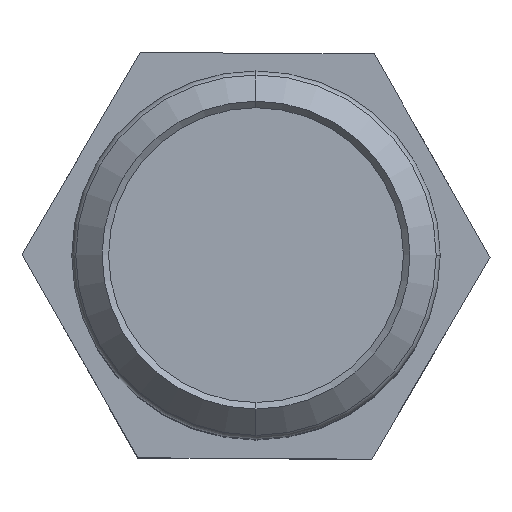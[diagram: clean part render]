
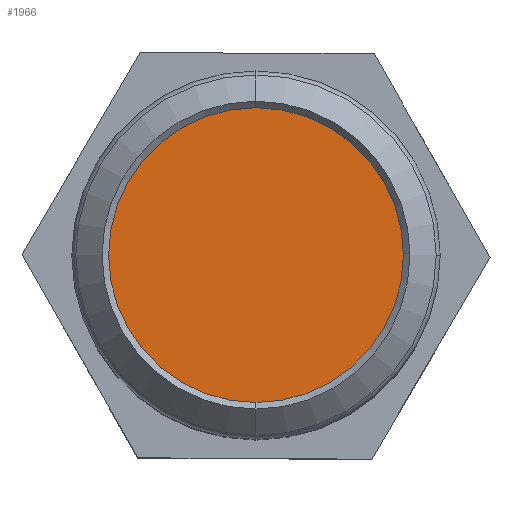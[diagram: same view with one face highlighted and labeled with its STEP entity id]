
A CAD part, top view. The second image highlights one B-rep face of the part: STEP entity #1966.
In plain terms, the highlighted planar face has unit normal (0, 0, 1).
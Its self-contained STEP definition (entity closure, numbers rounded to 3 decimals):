
#652=CARTESIAN_POINT('',(0.,0.,
29.896));
#653=DIRECTION('',(0.,0.,1.));
#654=DIRECTION('',(0.,1.,0.));
#655=AXIS2_PLACEMENT_3D('',#652,#653,#654);
#677=CARTESIAN_POINT('',(0.,0.,29.896));
#678=DIRECTION('',(0.,0.,-1.));
#679=DIRECTION('',(0.,1.,0.));
#680=AXIS2_PLACEMENT_3D('',#677,#678,#679);
#804=CARTESIAN_POINT('',(0.001,9.5,29.896));
#805=CARTESIAN_POINT('',(9.5,0.001,29.896));
#806=VERTEX_POINT('',#804);
#807=VERTEX_POINT('',#805);
#1956=CARTESIAN_POINT('',(0.,0.,29.896));
#1957=DIRECTION('',(0.,0.,1.));
#1958=DIRECTION('',(-1.,0.,0.));
#1959=AXIS2_PLACEMENT_3D('',#1956,#1957,#1958);
#1960=PLANE('',#1959);
#1961=ORIENTED_EDGE('',*,*,#1937,.F.);
#1963=ORIENTED_EDGE('',*,*,#1962,.T.);
#1964=EDGE_LOOP('',(#1961,#1963));
#1965=FACE_OUTER_BOUND('',#1964,.F.);
#656=CIRCLE('',#655,9.5);
#681=CIRCLE('',#680,9.5);
#1937=EDGE_CURVE('',#806,#807,#656,.T.);
#1962=EDGE_CURVE('',#806,#807,#681,.T.);
#1966=ADVANCED_FACE('',(#1965),#1960,.T.);
